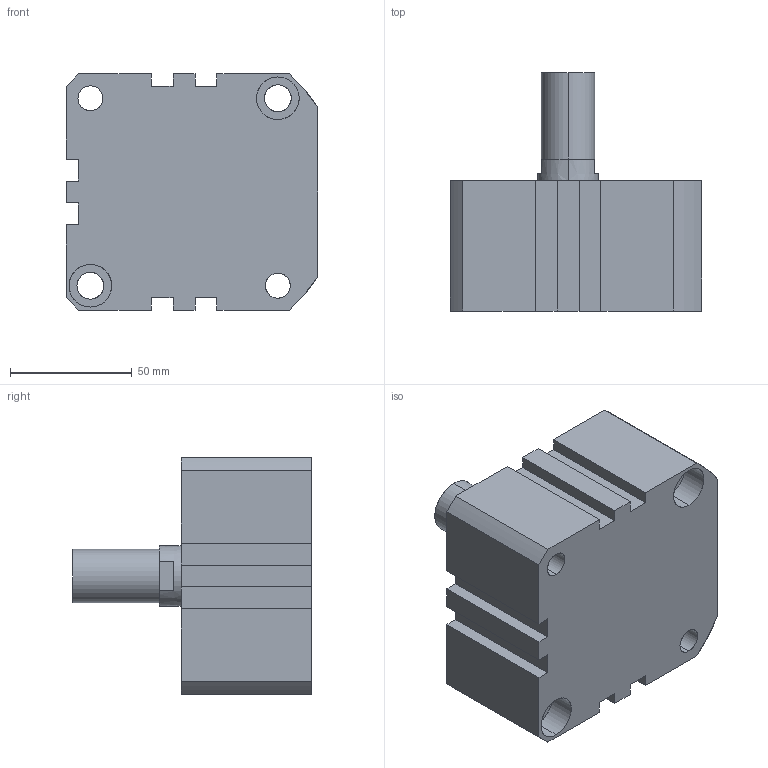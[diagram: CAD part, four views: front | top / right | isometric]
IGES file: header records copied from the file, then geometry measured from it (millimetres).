
Start section: SolidWorks IGES file using analytic representation for surfaces
Global section: file name: C:\Users\Toshiba\Desktop\XC#M2-80-10.IGS; native system: SolidWorks 2014; preprocessor: SolidWorks 2014; author: Toshiba; date: 160523.165059; units: millimetre
Bounding box: 103.5 x 98 x 97 mm (x, y, z)
Surface area: 55826.1 mm2 (no closed solid volume)
Topology: 0 solids, 0 shells, 99 faces, 1845 edges, 1841 vertices
Faces by surface type: revolution 51, bspline 48
